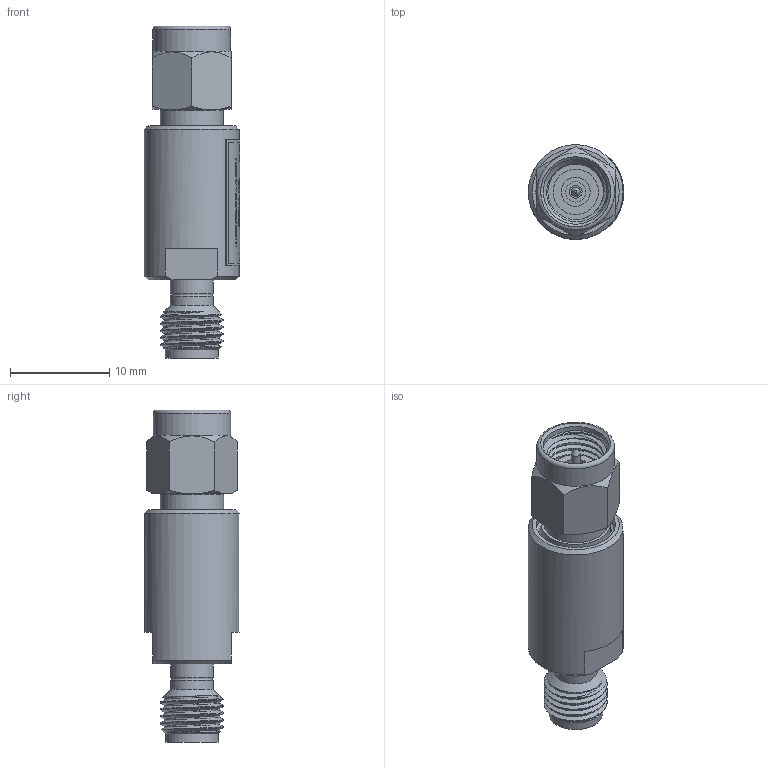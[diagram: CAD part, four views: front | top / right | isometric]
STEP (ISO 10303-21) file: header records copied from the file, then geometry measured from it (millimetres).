
FILE_DESCRIPTION (( 'STEP AP214' ), '1' );
FILE_NAME ('LM-0D5M18G-16-20W-AL-292FM 3D MODEL.STEP', '2026-03-31T15:56:38', ( '' ), ( '' ), 'SwSTEP 2.0', 'SolidWorks 2025', '' );
FILE_SCHEMA (( 'AUTOMOTIVE_DESIGN' ));
Length unit declared in the file: millimetre
Products named in the file (1): LM-0D5M18G-16-20W-AL-292FM 3D MODEL
Bounding box: 9.59 x 9.53 x 33.38 mm (x, y, z)
Volume: 1208 mm3; surface area: 2859.3 mm2
Topology: 14 solids, 14 shells, 286 faces, 1195 edges, 1043 vertices
Faces by surface type: cylinder 161, plane 76, cone 33, bspline 12, torus 2, sphere 2
Full cylindrical faces by diameter (mm): 0.305 x2, 0.635 x2, 0.66 x4, 0.737 x2, 0.914 x1, 0.965 x1, 1.016 x2, 1.219 x2, 1.27 x2, 1.829 x2, 2.032 x2, 2.921 x2, 2.997 x1, 3.457 x2, 4.318 x3, 4.343 x1, 4.559 x1, 4.633 x1, 5.334 x1, 5.537 x1, 5.944 x1, 6.35 x2, 6.477 x2, 6.528 x1, 6.553 x1, 6.731 x1, 6.96 x2, 7.137 x6, 7.163 x1, 7.417 x2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
Entity records: 22284 total; most frequent: CARTESIAN_POINT 10402, ORIENTED_EDGE 2172, DIRECTION 1328, EDGE_CURVE 1086, VERTEX_POINT 1014, AXIS2_PLACEMENT_3D 544, B_SPLINE_CURVE_WITH_KNOTS 510, EDGE_LOOP 474
